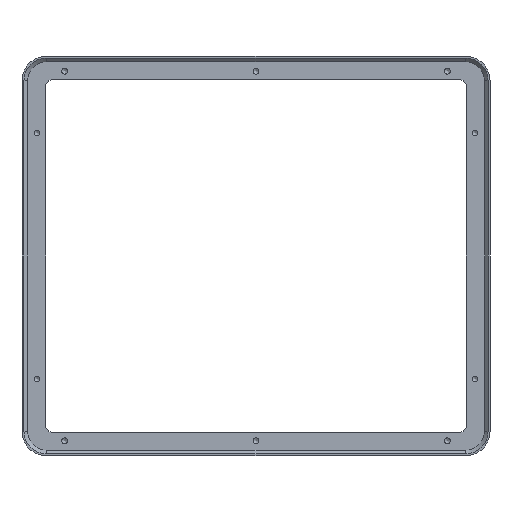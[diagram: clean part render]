
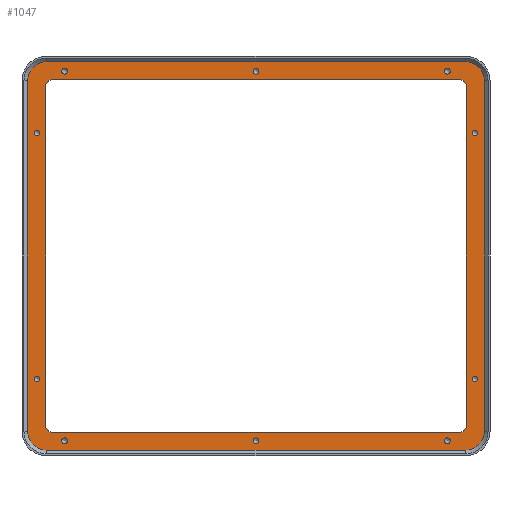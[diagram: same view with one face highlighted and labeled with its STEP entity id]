
A CAD part, front view. The second image highlights one B-rep face of the part: STEP entity #1047.
In plain terms, the highlighted planar face has unit normal (0, -1, 0).
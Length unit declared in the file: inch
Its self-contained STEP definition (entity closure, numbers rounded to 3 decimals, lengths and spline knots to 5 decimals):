
#26=FACE_BOUND('',#258,.T.);
#27=FACE_BOUND('',#259,.T.);
#28=FACE_BOUND('',#260,.T.);
#29=FACE_BOUND('',#261,.T.);
#30=FACE_BOUND('',#262,.T.);
#31=FACE_BOUND('',#263,.T.);
#32=FACE_BOUND('',#264,.T.);
#33=FACE_BOUND('',#265,.T.);
#34=FACE_BOUND('',#266,.T.);
#35=FACE_BOUND('',#267,.T.);
#36=FACE_BOUND('',#268,.T.);
#68=CIRCLE('',#1106,0.35);
#69=CIRCLE('',#1109,0.35);
#75=CIRCLE('',#1119,0.0535);
#77=CIRCLE('',#1123,0.0535);
#79=CIRCLE('',#1127,0.0535);
#81=CIRCLE('',#1131,0.0535);
#83=CIRCLE('',#1135,0.0535);
#85=CIRCLE('',#1139,0.0535);
#87=CIRCLE('',#1143,0.0535);
#89=CIRCLE('',#1147,0.0535);
#91=CIRCLE('',#1151,0.0535);
#93=CIRCLE('',#1155,0.0535);
#94=CIRCLE('',#1157,0.35);
#95=CIRCLE('',#1160,0.35);
#96=CIRCLE('',#1163,0.125);
#97=CIRCLE('',#1164,0.125);
#98=CIRCLE('',#1165,0.125);
#99=CIRCLE('',#1166,0.125);
#175=FACE_OUTER_BOUND('',#257,.T.);
#257=EDGE_LOOP('',(#813,#814,#815,#816,#817,#818,#819,#820));
#258=EDGE_LOOP('',(#821));
#259=EDGE_LOOP('',(#822));
#260=EDGE_LOOP('',(#823));
#261=EDGE_LOOP('',(#824));
#262=EDGE_LOOP('',(#825));
#263=EDGE_LOOP('',(#826));
#264=EDGE_LOOP('',(#827));
#265=EDGE_LOOP('',(#828));
#266=EDGE_LOOP('',(#829));
#267=EDGE_LOOP('',(#830));
#268=EDGE_LOOP('',(#831,#832,#833,#834,#835,#836,#837,#838));
#322=LINE('',#1614,#406);
#325=LINE('',#1622,#409);
#332=LINE('',#1707,#416);
#334=LINE('',#1713,#418);
#335=LINE('',#1719,#419);
#336=LINE('',#1723,#420);
#337=LINE('',#1727,#421);
#338=LINE('',#1730,#422);
#406=VECTOR('',#1275,0.3937);
#409=VECTOR('',#1284,0.3937);
#416=VECTOR('',#1387,0.3937);
#418=VECTOR('',#1395,0.3937);
#419=VECTOR('',#1400,0.3937);
#420=VECTOR('',#1403,0.3937);
#421=VECTOR('',#1406,0.3937);
#422=VECTOR('',#1409,0.3937);
#487=VERTEX_POINT('',#1606);
#488=VERTEX_POINT('',#1608);
#489=VERTEX_POINT('',#1612);
#490=VERTEX_POINT('',#1616);
#491=VERTEX_POINT('',#1620);
#501=VERTEX_POINT('',#1644);
#503=VERTEX_POINT('',#1650);
#505=VERTEX_POINT('',#1656);
#507=VERTEX_POINT('',#1662);
#509=VERTEX_POINT('',#1668);
#511=VERTEX_POINT('',#1674);
#513=VERTEX_POINT('',#1680);
#515=VERTEX_POINT('',#1686);
#517=VERTEX_POINT('',#1692);
#519=VERTEX_POINT('',#1698);
#520=VERTEX_POINT('',#1701);
#521=VERTEX_POINT('',#1703);
#522=VERTEX_POINT('',#1709);
#523=VERTEX_POINT('',#1715);
#524=VERTEX_POINT('',#1716);
#525=VERTEX_POINT('',#1718);
#526=VERTEX_POINT('',#1720);
#527=VERTEX_POINT('',#1722);
#528=VERTEX_POINT('',#1724);
#529=VERTEX_POINT('',#1726);
#530=VERTEX_POINT('',#1728);
#588=EDGE_CURVE('',#487,#488,#68,.T.);
#591=EDGE_CURVE('',#489,#487,#322,.T.);
#593=EDGE_CURVE('',#490,#489,#69,.T.);
#595=EDGE_CURVE('',#491,#490,#325,.T.);
#605=EDGE_CURVE('',#501,#501,#75,.T.);
#607=EDGE_CURVE('',#503,#503,#77,.T.);
#609=EDGE_CURVE('',#505,#505,#79,.T.);
#611=EDGE_CURVE('',#507,#507,#81,.T.);
#613=EDGE_CURVE('',#509,#509,#83,.T.);
#615=EDGE_CURVE('',#511,#511,#85,.T.);
#617=EDGE_CURVE('',#513,#513,#87,.T.);
#619=EDGE_CURVE('',#515,#515,#89,.T.);
#621=EDGE_CURVE('',#517,#517,#91,.T.);
#623=EDGE_CURVE('',#519,#519,#93,.T.);
#625=EDGE_CURVE('',#520,#521,#94,.T.);
#627=EDGE_CURVE('',#488,#520,#332,.T.);
#629=EDGE_CURVE('',#522,#491,#95,.T.);
#630=EDGE_CURVE('',#521,#522,#334,.T.);
#631=EDGE_CURVE('',#523,#524,#96,.T.);
#632=EDGE_CURVE('',#525,#523,#335,.T.);
#633=EDGE_CURVE('',#526,#525,#97,.T.);
#634=EDGE_CURVE('',#527,#526,#336,.T.);
#635=EDGE_CURVE('',#528,#527,#98,.T.);
#636=EDGE_CURVE('',#529,#528,#337,.T.);
#637=EDGE_CURVE('',#530,#529,#99,.T.);
#638=EDGE_CURVE('',#524,#530,#338,.T.);
#813=ORIENTED_EDGE('',*,*,#630,.F.);
#814=ORIENTED_EDGE('',*,*,#625,.F.);
#815=ORIENTED_EDGE('',*,*,#627,.F.);
#816=ORIENTED_EDGE('',*,*,#588,.F.);
#817=ORIENTED_EDGE('',*,*,#591,.F.);
#818=ORIENTED_EDGE('',*,*,#593,.F.);
#819=ORIENTED_EDGE('',*,*,#595,.F.);
#820=ORIENTED_EDGE('',*,*,#629,.F.);
#821=ORIENTED_EDGE('',*,*,#605,.T.);
#822=ORIENTED_EDGE('',*,*,#607,.T.);
#823=ORIENTED_EDGE('',*,*,#609,.T.);
#824=ORIENTED_EDGE('',*,*,#611,.T.);
#825=ORIENTED_EDGE('',*,*,#613,.T.);
#826=ORIENTED_EDGE('',*,*,#615,.T.);
#827=ORIENTED_EDGE('',*,*,#617,.T.);
#828=ORIENTED_EDGE('',*,*,#619,.T.);
#829=ORIENTED_EDGE('',*,*,#621,.T.);
#830=ORIENTED_EDGE('',*,*,#623,.T.);
#831=ORIENTED_EDGE('',*,*,#631,.F.);
#832=ORIENTED_EDGE('',*,*,#632,.F.);
#833=ORIENTED_EDGE('',*,*,#633,.F.);
#834=ORIENTED_EDGE('',*,*,#634,.F.);
#835=ORIENTED_EDGE('',*,*,#635,.F.);
#836=ORIENTED_EDGE('',*,*,#636,.F.);
#837=ORIENTED_EDGE('',*,*,#637,.F.);
#838=ORIENTED_EDGE('',*,*,#638,.F.);
#992=PLANE('',#1162);
#1047=ADVANCED_FACE('',(#175,#26,#27,#28,#29,#30,#31,#32,#33,#34,#35,#36),
#992,.F.);
#1106=AXIS2_PLACEMENT_3D('',#1609,#1269,#1270);
#1109=AXIS2_PLACEMENT_3D('',#1618,#1279,#1280);
#1119=AXIS2_PLACEMENT_3D('',#1645,#1305,#1306);
#1123=AXIS2_PLACEMENT_3D('',#1651,#1313,#1314);
#1127=AXIS2_PLACEMENT_3D('',#1657,#1321,#1322);
#1131=AXIS2_PLACEMENT_3D('',#1663,#1329,#1330);
#1135=AXIS2_PLACEMENT_3D('',#1669,#1337,#1338);
#1139=AXIS2_PLACEMENT_3D('',#1675,#1345,#1346);
#1143=AXIS2_PLACEMENT_3D('',#1681,#1353,#1354);
#1147=AXIS2_PLACEMENT_3D('',#1687,#1361,#1362);
#1151=AXIS2_PLACEMENT_3D('',#1693,#1369,#1370);
#1155=AXIS2_PLACEMENT_3D('',#1699,#1377,#1378);
#1157=AXIS2_PLACEMENT_3D('',#1704,#1382,#1383);
#1160=AXIS2_PLACEMENT_3D('',#1711,#1391,#1392);
#1162=AXIS2_PLACEMENT_3D('',#1714,#1396,#1397);
#1163=AXIS2_PLACEMENT_3D('',#1717,#1398,#1399);
#1164=AXIS2_PLACEMENT_3D('',#1721,#1401,#1402);
#1165=AXIS2_PLACEMENT_3D('',#1725,#1404,#1405);
#1166=AXIS2_PLACEMENT_3D('',#1729,#1407,#1408);
#1269=DIRECTION('center_axis',(0.,1.,0.));
#1270=DIRECTION('ref_axis',(0.,0.,1.));
#1275=DIRECTION('',(0.,0.,1.));
#1279=DIRECTION('center_axis',(0.,1.,0.));
#1280=DIRECTION('ref_axis',(-1.,0.,0.));
#1284=DIRECTION('',(-1.,0.,0.));
#1305=DIRECTION('center_axis',(0.,1.,0.));
#1306=DIRECTION('ref_axis',(1.,0.,0.));
#1313=DIRECTION('center_axis',(0.,1.,0.));
#1314=DIRECTION('ref_axis',(1.,0.,0.));
#1321=DIRECTION('center_axis',(0.,1.,0.));
#1322=DIRECTION('ref_axis',(1.,0.,0.));
#1329=DIRECTION('center_axis',(0.,1.,0.));
#1330=DIRECTION('ref_axis',(1.,0.,0.));
#1337=DIRECTION('center_axis',(0.,1.,0.));
#1338=DIRECTION('ref_axis',(1.,0.,0.));
#1345=DIRECTION('center_axis',(0.,1.,0.));
#1346=DIRECTION('ref_axis',(1.,0.,0.));
#1353=DIRECTION('center_axis',(0.,1.,0.));
#1354=DIRECTION('ref_axis',(1.,0.,0.));
#1361=DIRECTION('center_axis',(0.,1.,0.));
#1362=DIRECTION('ref_axis',(1.,0.,0.));
#1369=DIRECTION('center_axis',(0.,1.,0.));
#1370=DIRECTION('ref_axis',(1.,0.,0.));
#1377=DIRECTION('center_axis',(0.,1.,0.));
#1378=DIRECTION('ref_axis',(1.,0.,0.));
#1382=DIRECTION('center_axis',(0.,1.,0.));
#1383=DIRECTION('ref_axis',(1.,0.,0.));
#1387=DIRECTION('',(1.,0.,0.));
#1391=DIRECTION('center_axis',(0.,1.,0.));
#1392=DIRECTION('ref_axis',(0.,0.,-1.));
#1395=DIRECTION('',(0.,0.,-1.));
#1396=DIRECTION('center_axis',(0.,1.,0.));
#1397=DIRECTION('ref_axis',(0.,0.,1.));
#1398=DIRECTION('center_axis',(0.,-1.,0.));
#1399=DIRECTION('ref_axis',(-0.707,0.,0.707));
#1400=DIRECTION('',(-1.,0.,0.));
#1401=DIRECTION('center_axis',(0.,-1.,0.));
#1402=DIRECTION('ref_axis',(0.707,0.,0.707));
#1403=DIRECTION('',(0.,0.,1.));
#1404=DIRECTION('center_axis',(0.,-1.,0.));
#1405=DIRECTION('ref_axis',(0.707,0.,-0.707));
#1406=DIRECTION('',(1.,0.,0.));
#1407=DIRECTION('center_axis',(0.,-1.,0.));
#1408=DIRECTION('ref_axis',(-0.707,0.,-0.707));
#1409=DIRECTION('',(0.,0.,-1.));
#1606=CARTESIAN_POINT('',(-4.18125,0.425,3.20625));
#1608=CARTESIAN_POINT('',(-3.83125,0.425,3.55625));
#1609=CARTESIAN_POINT('Origin',(-3.83125,0.425,3.20625));
#1612=CARTESIAN_POINT('',(-4.18125,0.425,-3.20625));
#1614=CARTESIAN_POINT('',(-4.18125,0.425,3.20625));
#1616=CARTESIAN_POINT('',(-3.83125,0.425,-3.55625));
#1618=CARTESIAN_POINT('Origin',(-3.83125,0.425,-3.20625));
#1620=CARTESIAN_POINT('',(3.83125,0.425,-3.55625));
#1622=CARTESIAN_POINT('',(-3.83125,0.425,-3.55625));
#1644=CARTESIAN_POINT('',(-3.954,0.425,-2.25));
#1645=CARTESIAN_POINT('Origin',(-4.0075,0.425,-2.25));
#1650=CARTESIAN_POINT('',(3.5535,0.425,3.3825));
#1651=CARTESIAN_POINT('Origin',(3.5,0.425,3.3825));
#1656=CARTESIAN_POINT('',(-3.4465,0.425,-3.3825));
#1657=CARTESIAN_POINT('Origin',(-3.5,0.425,-3.3825));
#1662=CARTESIAN_POINT('',(3.5535,0.425,-3.3825));
#1663=CARTESIAN_POINT('Origin',(3.5,0.425,-3.3825));
#1668=CARTESIAN_POINT('',(4.061,0.425,-2.25));
#1669=CARTESIAN_POINT('Origin',(4.0075,0.425,-2.25));
#1674=CARTESIAN_POINT('',(4.061,0.425,2.25));
#1675=CARTESIAN_POINT('Origin',(4.0075,0.425,2.25));
#1680=CARTESIAN_POINT('',(0.0535,0.425,-3.3825));
#1681=CARTESIAN_POINT('Origin',(0.,0.425,-3.3825));
#1686=CARTESIAN_POINT('',(0.0535,0.425,3.3825));
#1687=CARTESIAN_POINT('Origin',(0.,0.425,3.3825));
#1692=CARTESIAN_POINT('',(-3.4465,0.425,3.3825));
#1693=CARTESIAN_POINT('Origin',(-3.5,0.425,3.3825));
#1698=CARTESIAN_POINT('',(-3.954,0.425,2.25));
#1699=CARTESIAN_POINT('Origin',(-4.0075,0.425,2.25));
#1701=CARTESIAN_POINT('',(3.83125,0.425,3.55625));
#1703=CARTESIAN_POINT('',(4.18125,0.425,3.20625));
#1704=CARTESIAN_POINT('Origin',(3.83125,0.425,3.20625));
#1707=CARTESIAN_POINT('',(3.83125,0.425,3.55625));
#1709=CARTESIAN_POINT('',(4.18125,0.425,-3.20625));
#1711=CARTESIAN_POINT('Origin',(3.83125,0.425,-3.20625));
#1713=CARTESIAN_POINT('',(4.18125,0.425,-3.20625));
#1714=CARTESIAN_POINT('Origin',(0.,0.425,0.));
#1715=CARTESIAN_POINT('',(-3.725,0.425,3.225));
#1716=CARTESIAN_POINT('',(-3.85,0.425,3.1));
#1717=CARTESIAN_POINT('Origin',(-3.725,0.425,3.1));
#1718=CARTESIAN_POINT('',(3.725,0.425,3.225));
#1719=CARTESIAN_POINT('',(1.925,0.425,3.225));
#1720=CARTESIAN_POINT('',(3.85,0.425,3.1));
#1721=CARTESIAN_POINT('Origin',(3.725,0.425,3.1));
#1722=CARTESIAN_POINT('',(3.85,0.425,-3.1));
#1723=CARTESIAN_POINT('',(3.85,0.425,-1.6125));
#1724=CARTESIAN_POINT('',(3.725,0.425,-3.225));
#1725=CARTESIAN_POINT('Origin',(3.725,0.425,-3.1));
#1726=CARTESIAN_POINT('',(-3.725,0.425,-3.225));
#1727=CARTESIAN_POINT('',(-1.925,0.425,-3.225));
#1728=CARTESIAN_POINT('',(-3.85,0.425,-3.1));
#1729=CARTESIAN_POINT('Origin',(-3.725,0.425,-3.1));
#1730=CARTESIAN_POINT('',(-3.85,0.425,1.6125));
